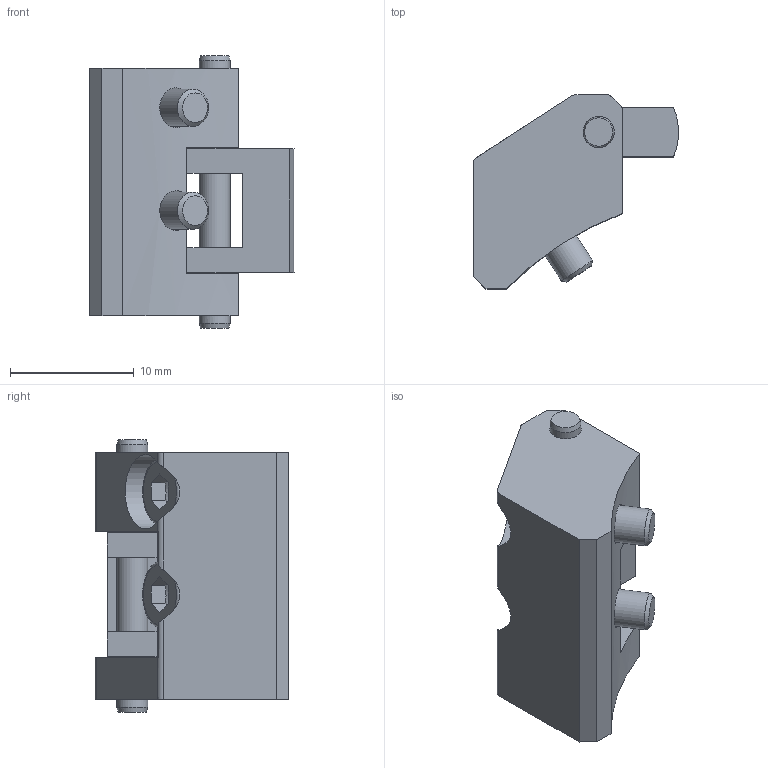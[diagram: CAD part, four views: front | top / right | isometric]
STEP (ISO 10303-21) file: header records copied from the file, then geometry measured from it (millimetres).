
FILE_DESCRIPTION(/* description */ (''),/* implementation_level */ '2;1');
FILE_NAME(/* name */ '\\dc01\daten\CAD\Standard\Daten\3D-Datenbank\SWS\4 - 3D-CAD-Daten SWS 050-160\SWS050\EG-SWS050-VS2.stp',/* time_stamp */ '2016-11-11T11:26:39+01:00',/* author */ ('ysplieth'),/* organization */ (''),/* preprocessor_version */ 'ST-DEVELOPER v15.2',/* originating_system */ 'Autodesk Inventor 2014',/* authorisation */ '');
FILE_SCHEMA (('AUTOMOTIVE_DESIGN { 1 0 10303 214 3 1 1 }'));
Length unit declared in the file: millimetre
Products named in the file (1): Bauteil1
Bounding box: 16.53 x 15.65 x 22 mm (x, y, z)
Volume: 2257.4 mm3; surface area: 2193.9 mm2
Topology: 2 solids, 2 shells, 80 faces, 205 edges, 134 vertices
Faces by surface type: plane 46, cylinder 24, cone 6, torus 4
Full cylindrical faces by diameter (mm): 2.5 x3, 2.52 x2, 3 x2, 3.2 x2, 5.5 x2, 6 x2
Entity records: 2416 total; most frequent: CARTESIAN_POINT 490, DIRECTION 372, ORIENTED_EDGE 346, EDGE_CURVE 173, AXIS2_PLACEMENT_3D 136, VERTEX_POINT 125, EDGE_LOOP 114, LINE 100
